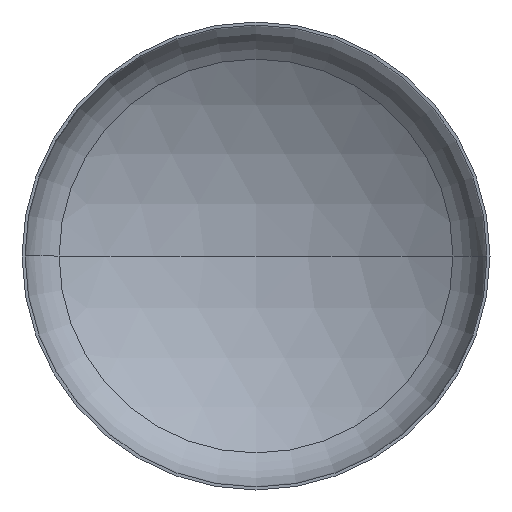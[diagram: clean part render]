
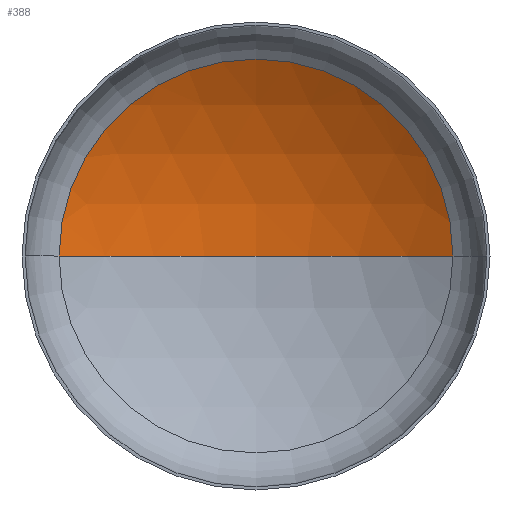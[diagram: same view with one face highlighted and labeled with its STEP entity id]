
A CAD part, front view. The second image highlights one B-rep face of the part: STEP entity #388.
In plain terms, the highlighted spherical face has radius 1120 mm.
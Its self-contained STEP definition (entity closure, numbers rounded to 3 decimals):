
#2 = AXIS2_PLACEMENT_3D ( 'NONE', #373, #224, #226 ) ;
#3 = EDGE_LOOP ( 'NONE', ( #223, #153, #338 ) ) ;
#9 = AXIS2_PLACEMENT_3D ( 'NONE', #108, #72, #102 ) ;
#10 = AXIS2_PLACEMENT_3D ( 'NONE', #262, #149, #151 ) ;
#29 = VERTEX_POINT ( 'NONE', #249 ) ;
#31 = VERTEX_POINT ( 'NONE', #368 ) ;
#72 = DIRECTION ( 'NONE',  ( 0., 0., 1. ) ) ;
#98 = VERTEX_POINT ( 'NONE', #357 ) ;
#102 = DIRECTION ( 'NONE',  ( 1., 0., 0. ) ) ;
#108 = CARTESIAN_POINT ( 'NONE',  ( 0., -739.707, 0. ) ) ;
#125 = CARTESIAN_POINT ( 'NONE',  ( 0., -739.707, 0. ) ) ;
#149 = DIRECTION ( 'NONE',  ( 0., 0., -1. ) ) ;
#151 = DIRECTION ( 'NONE',  ( -1., 0., 0. ) ) ;
#153 = ORIENTED_EDGE ( 'NONE', *, *, #335, .T. ) ;
#176 = SPHERICAL_SURFACE ( 'NONE', #395, 1120. ) ;
#185 = FACE_OUTER_BOUND ( 'NONE', #3, .T. ) ;
#203 = DIRECTION ( 'NONE',  ( -1., 0., 0. ) ) ;
#223 = ORIENTED_EDGE ( 'NONE', *, *, #340, .F. ) ;
#224 = DIRECTION ( 'NONE',  ( 0., -1., 0. ) ) ;
#226 = DIRECTION ( 'NONE',  ( 1., 0., 0. ) ) ;
#249 = CARTESIAN_POINT ( 'NONE',  ( -589.083, 212.859, 0. ) ) ;
#257 = CIRCLE ( 'NONE', #10, 1120. ) ;
#262 = CARTESIAN_POINT ( 'NONE',  ( 0., -739.707, 0. ) ) ;
#299 = CIRCLE ( 'NONE', #2, 589.083 ) ;
#307 = CIRCLE ( 'NONE', #9, 1120. ) ;
#335 = EDGE_CURVE ( 'NONE', #31, #98, #257, .T. ) ;
#338 = ORIENTED_EDGE ( 'NONE', *, *, #371, .T. ) ;
#340 = EDGE_CURVE ( 'NONE', #31, #29, #307, .T. ) ;
#357 = CARTESIAN_POINT ( 'NONE',  ( 589.083, 212.859, 0. ) ) ;
#368 = CARTESIAN_POINT ( 'NONE',  ( 0., 380.293, 0. ) ) ;
#371 = EDGE_CURVE ( 'NONE', #98, #29, #299, .T. ) ;
#373 = CARTESIAN_POINT ( 'NONE',  ( 0., 212.859, 0. ) ) ;
#388 = ADVANCED_FACE ( 'NONE', ( #185 ), #176, .F. ) ;
#394 = DIRECTION ( 'NONE',  ( 0., 0., -1. ) ) ;
#395 = AXIS2_PLACEMENT_3D ( 'NONE', #125, #394, #203 ) ;
